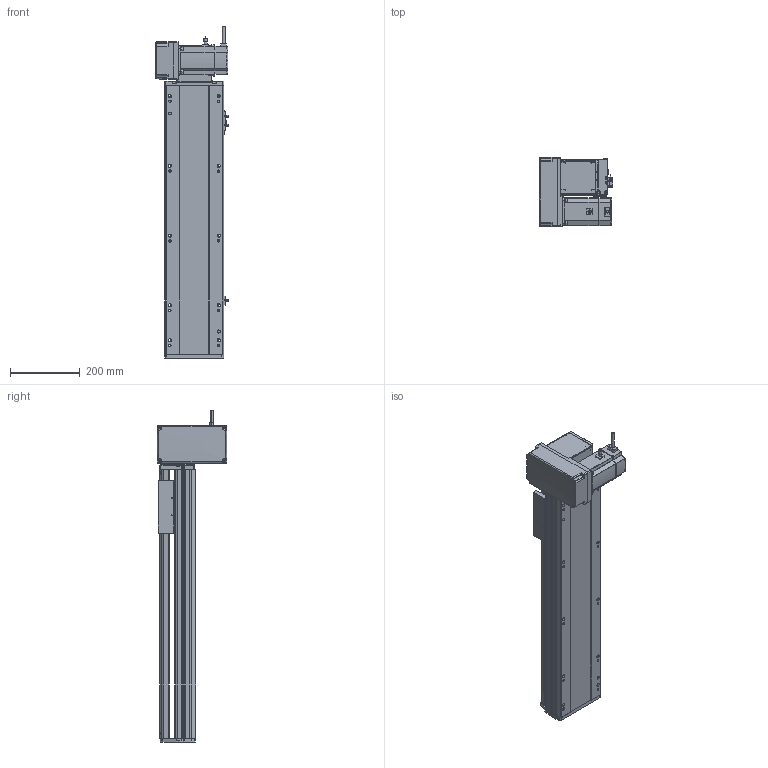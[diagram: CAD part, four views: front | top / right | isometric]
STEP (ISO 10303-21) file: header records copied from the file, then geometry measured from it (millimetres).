
FILE_DESCRIPTION (( 'STEP AP214' ), '1' );
FILE_NAME ('RTB17S-XX-500-LM-M75-C4.STEP', '2025-12-12T00:35:23', ( '' ), ( '' ), 'SwSTEP 2.0', 'SolidWorks 2018', '' );
FILE_SCHEMA (( 'AUTOMOTIVE_DESIGN' ));
Length unit declared in the file: millimetre
Products named in the file (15): RTB17S-XX-500-LM-M75-C4; RTB17S-L-001-耜醱啣^RTB17S-XX-XX-LM-M75-C4; RTB17S-L-007奻裔^RTB17S-XX-XX-LM-M75-C4; EE672^RTB17S-XX-XX-LM-M75-C4; RTB22S-GY-018P^RTB17S-LM-々湍釱蚾饜-750W_RTB17S-XX-XX-LM-M75-C4; RTB17-R-011菁釱^RTB17S-XX-XX-LM-M75-C4; RTB22S-GY-008-M75--萇儂啣^RTB17S-LM-々湍釱蚾饜-750W_RTB17S-XX-XX-LM-M75-C4; RTH13-BL-012覜茼え俋离^RTB17S-賑釱_RTB17S-XX-XX-LM-M75-C4; RTB17S-LM-々湍釱蚾饜-750W^RTB17S-XX-XX-LM-M75-C4; RTB17S-L-014-T20-P75--々湍釱^RTB17S-LM-々湍釱蚾饜-750W_RTB17S-XX-XX-LM-M75-C4; RTB22S-GY-005P^RTB17S-LM-々湍釱蚾饜-750W_RTB17S-XX-XX-LM-M75-C4; RTB17S-L-004-賑釱^RTB17S-賑釱_RTB17S-XX-XX-LM-M75-C4; 750W萇儂^RTB17S-XX-XX-LM-M75-C4; RTB22S-GY-017P^RTB17S-LM-々湍釱蚾饜-750W_RTB17S-XX-XX-LM-M75-C4; RTB17S-賑釱^RTB17S-XX-XX-LM-M75-C4
Assembly tree (17 placements, depth 3):
  RTB17S-XX-500-LM-M75-C4
    RTB17-R-011菁釱^RTB17S-XX-XX-LM-M75-C4
    EE672^RTB17S-XX-XX-LM-M75-C4  x3
    RTB17S-L-001-耜醱啣^RTB17S-XX-XX-LM-M75-C4
    RTB17S-賑釱^RTB17S-XX-XX-LM-M75-C4
      RTB17S-L-004-賑釱^RTB17S-賑釱_RTB17S-XX-XX-LM-M75-C4
      RTH13-BL-012覜茼え俋离^RTB17S-賑釱_RTB17S-XX-XX-LM-M75-C4
    RTB17S-L-007奻裔^RTB17S-XX-XX-LM-M75-C4
    750W萇儂^RTB17S-XX-XX-LM-M75-C4
    RTB17S-LM-々湍釱蚾饜-750W^RTB17S-XX-XX-LM-M75-C4
      RTB17S-L-014-T20-P75--々湍釱^RTB17S-LM-々湍釱蚾饜-750W_RTB17S-XX-XX-LM-M75-C4
      RTB22S-GY-005P^RTB17S-LM-々湍釱蚾饜-750W_RTB17S-XX-XX-LM-M75-C4
      RTB22S-GY-017P^RTB17S-LM-々湍釱蚾饜-750W_RTB17S-XX-XX-LM-M75-C4  x2
      RTB22S-GY-008-M75--萇儂啣^RTB17S-LM-々湍釱蚾饜-750W_RTB17S-XX-XX-LM-M75-C4
      RTB22S-GY-018P^RTB17S-LM-々湍釱蚾饜-750W_RTB17S-XX-XX-LM-M75-C4
Bounding box: 210.4 x 200 x 952.2 mm (x, y, z)
Volume: 9072938.5 mm3; surface area: 1457653.8 mm2
Topology: 17 solids, 17 shells, 2057 faces, 5674 edges, 3662 vertices
Faces by surface type: plane 966, cylinder 675, bspline 294, cone 110, sphere 8, torus 4
Entity records: 56566 total; most frequent: CARTESIAN_POINT 16538, ORIENTED_EDGE 8192, DIRECTION 7682, EDGE_CURVE 4096, AXIS2_PLACEMENT_3D 2682, VERTEX_POINT 2666, LINE 2318, VECTOR 2318
